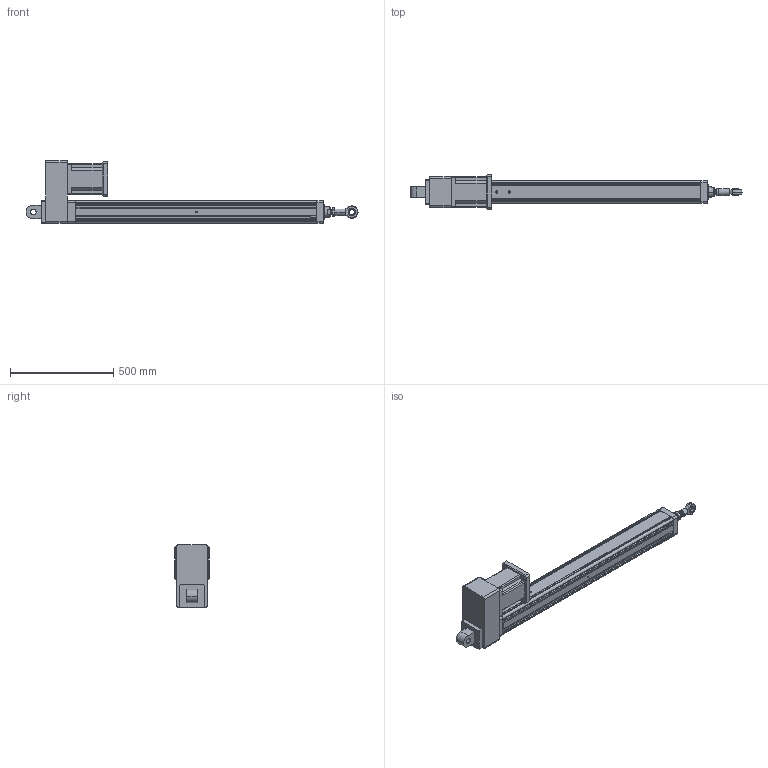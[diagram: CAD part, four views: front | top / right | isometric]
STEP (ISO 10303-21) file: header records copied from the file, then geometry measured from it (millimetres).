
FILE_DESCRIPTION (( 'STEP AP203' ), '1' );
FILE_NAME ('YRJ110-L1000-H6K3.STEP', '2020-01-04T06:59:43', ( 'User' ), ( 'China' ), 'SwSTEP 2.0', 'SolidWorks 2016', '' );
FILE_SCHEMA (( 'CONFIG_CONTROL_DESIGN' ));
Length unit declared in the file: millimetre
Products named in the file (12): H5-110-1; H6-110; H3-110-2; K1-110; _BNC01-SI25T_K-R-001; _BNC01-SI25T_K-R-002; 095-100俴最倰第; BNC01-SI25T_K-R; 萇儂碟-110; K3-110; 142熬厒儂; YRJ110-L1000-H6K3
Assembly tree (11 placements, depth 4):
  YRJ110-L1000-H6K3
    095-100俴最倰第
    萇儂碟-110
    142熬厒儂
    H5-110-1
    H6-110
    H3-110-2
    K3-110
      K1-110
      BNC01-SI25T_K-R
        _BNC01-SI25T_K-R-001
        _BNC01-SI25T_K-R-002
Bounding box: 1610 x 168 x 305.5 mm (x, y, z)
Volume: 15115895.6 mm3; surface area: 1573008.7 mm2
Topology: 9 solids, 9 shells, 406 faces, 1116 edges, 719 vertices
Faces by surface type: plane 190, cylinder 168, cone 34, bspline 14
Entity records: 23115 total; most frequent: CARTESIAN_POINT 11746, ORIENTED_EDGE 2176, DIRECTION 2031, EDGE_CURVE 1088, VERTEX_POINT 719, AXIS2_PLACEMENT_3D 684, VECTOR 663, LINE 663
